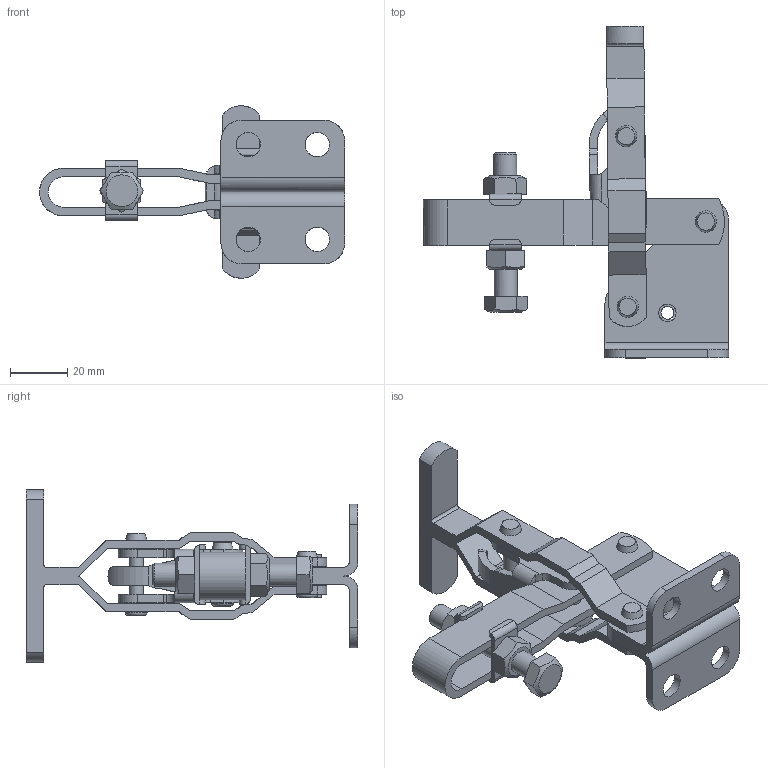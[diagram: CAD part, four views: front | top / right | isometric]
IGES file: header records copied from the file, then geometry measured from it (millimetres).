
Global section: file name: No.42P(42P-2S); native system: Autodesk Inventor 2020; preprocessor: unknown; author: 高橋善宗,,11,0, ; organization: 16010101.000000; date: 20251031.105408; units: millimetre
Bounding box: 106.18 x 115.43 x 59.99 mm (x, y, z)
Volume: 47623.7 mm3; surface area: 35734.3 mm2
Topology: 13 solids, 13 shells, 261 faces, 681 edges, 459 vertices
Faces by surface type: bspline 261
